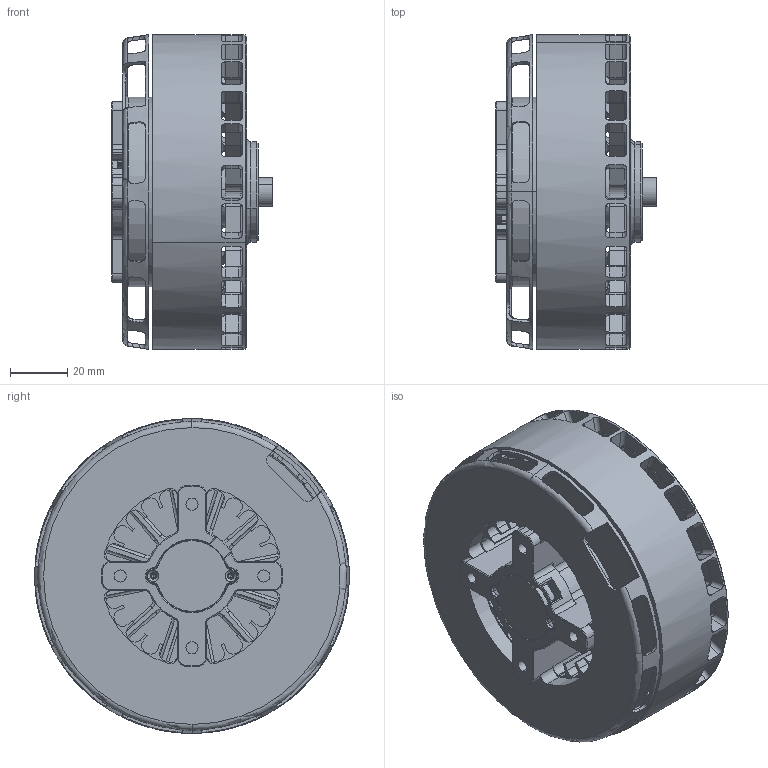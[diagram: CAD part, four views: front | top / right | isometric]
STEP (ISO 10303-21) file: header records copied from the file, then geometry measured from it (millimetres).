
FILE_DESCRIPTION (( 'STEP AP214' ), '1' );
FILE_NAME ('VL10018萇赽隅蔑.STEP', '2024-06-11T05:44:07', ( '' ), ( '' ), 'SwSTEP 2.0', 'SolidWorks 2021', '' );
FILE_SCHEMA (( 'AUTOMOTIVE_DESIGN' ));
Length unit declared in the file: millimetre
Products named in the file (1): VL10018萇赽隅蔑
Bounding box: 56 x 109.6 x 109.6 mm (x, y, z)
Volume: 187513.6 mm3; surface area: 114750 mm2
Topology: 4 solids, 9 shells, 2013 faces, 6187 edges, 3948 vertices
Faces by surface type: cylinder 903, plane 559, torus 279, cone 136, sphere 136
Entity records: 97348 total; most frequent: CARTESIAN_POINT 22144, ORIENTED_EDGE 11950, DIRECTION 10630, EDGE_CURVE 5975, AXIS2_PLACEMENT_3D 4304, VERTEX_POINT 3880, CIRCLE 2290, EDGE_LOOP 2139
